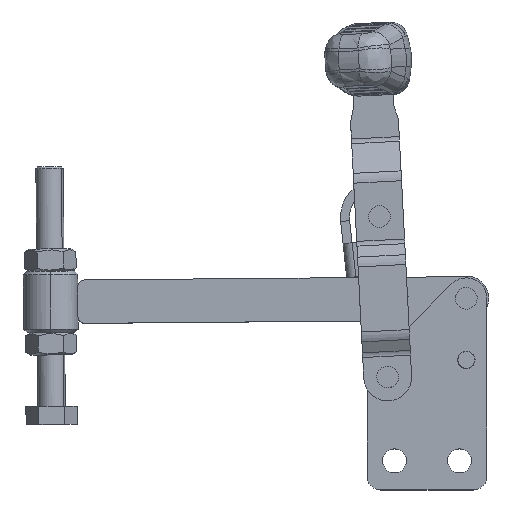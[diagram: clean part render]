
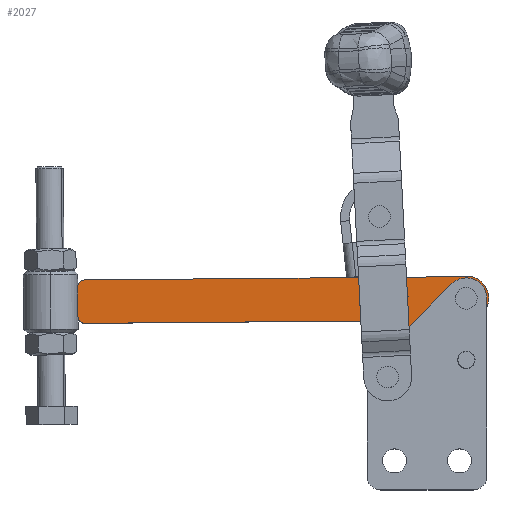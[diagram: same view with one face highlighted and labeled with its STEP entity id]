
A CAD part, top view. The second image highlights one B-rep face of the part: STEP entity #2027.
In plain terms, the highlighted planar face has unit normal (0, 0, 1) as drawn and (0, -1, 0) by its records, which use the part's own axes.
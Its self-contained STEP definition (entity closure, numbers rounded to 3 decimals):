
#147 = DIRECTION ( 'NONE',  ( 0., 1., 0. ) ) ;
#418 = CARTESIAN_POINT ( 'NONE',  ( -57.55, 0., -6.35 ) ) ;
#569 = LINE ( 'NONE', #21620, #13181 ) ;
#696 = VECTOR ( 'NONE', #8075, 1000. ) ;
#793 = CARTESIAN_POINT ( 'NONE',  ( -56.018, 0., 0. ) ) ;
#1320 = VERTEX_POINT ( 'NONE', #28789 ) ;
#2027 = ADVANCED_FACE ( 'NONE', ( #29969, #9384, #14884 ), #5028, .T. ) ;
#2110 = EDGE_CURVE ( 'NONE', #17404, #31319, #569, .T. ) ;
#2946 = VERTEX_POINT ( 'NONE', #29573 ) ;
#2957 = CARTESIAN_POINT ( 'NONE',  ( -41.05, 0., 8.85 ) ) ;
#3030 = EDGE_CURVE ( 'NONE', #1320, #31054, #18619, .T. ) ;
#3162 = AXIS2_PLACEMENT_3D ( 'NONE', #28109, #12039, #30812 ) ;
#3501 = DIRECTION ( 'NONE',  ( 0., 0., 1. ) ) ;
#4241 = CIRCLE ( 'NONE', #32266, 2. ) ;
#4314 = VECTOR ( 'NONE', #27013, 1000. ) ;
#4521 = EDGE_LOOP ( 'NONE', ( #33034, #19930 ) ) ;
#5028 = PLANE ( 'NONE',  #6957 ) ;
#5353 = CARTESIAN_POINT ( 'NONE',  ( -57.55, 0., -6.35 ) ) ;
#6162 = CARTESIAN_POINT ( 'NONE',  ( -33.018, 0., 2.4 ) ) ;
#6400 = ORIENTED_EDGE ( 'NONE', *, *, #11400, .F. ) ;
#6488 = CIRCLE ( 'NONE', #12327, 2.4 ) ;
#6538 = CARTESIAN_POINT ( 'NONE',  ( -41.05, 0., -46.85 ) ) ;
#6780 = CARTESIAN_POINT ( 'NONE',  ( 55.55, 0., -4.35 ) ) ;
#6957 = AXIS2_PLACEMENT_3D ( 'NONE', #21511, #29470, #10677 ) ;
#7442 = ORIENTED_EDGE ( 'NONE', *, *, #31437, .T. ) ;
#7543 = AXIS2_PLACEMENT_3D ( 'NONE', #13615, #32413, #16334 ) ;
#8075 = DIRECTION ( 'NONE',  ( -1., 0., 0. ) ) ;
#9232 = DIRECTION ( 'NONE',  ( 0., 0., 1. ) ) ;
#9384 = FACE_OUTER_BOUND ( 'NONE', #25032, .T. ) ;
#9443 = CIRCLE ( 'NONE', #34185, 2. ) ;
#9472 = DIRECTION ( 'NONE',  ( 0., 0., -1. ) ) ;
#9796 = CARTESIAN_POINT ( 'NONE',  ( -24.55, 0., 6.35 ) ) ;
#10076 = CARTESIAN_POINT ( 'NONE',  ( 57.55, 0., -4.35 ) ) ;
#10560 = DIRECTION ( 'NONE',  ( 0., 1., 0. ) ) ;
#10677 = DIRECTION ( 'NONE',  ( 0., 0., -1. ) ) ;
#10789 = CARTESIAN_POINT ( 'NONE',  ( 55.55, 0., -6.35 ) ) ;
#11400 = EDGE_CURVE ( 'NONE', #24455, #20891, #17038, .T. ) ;
#11495 = EDGE_CURVE ( 'NONE', #20891, #17404, #23345, .T. ) ;
#11855 = EDGE_CURVE ( 'NONE', #1320, #31319, #9443, .T. ) ;
#12039 = DIRECTION ( 'NONE',  ( 0., 1., 0. ) ) ;
#12327 = AXIS2_PLACEMENT_3D ( 'NONE', #16257, #147, #18947 ) ;
#12744 = DIRECTION ( 'NONE',  ( 0., 1., 0. ) ) ;
#13134 = CARTESIAN_POINT ( 'NONE',  ( -57.55, 0., 6.35 ) ) ;
#13181 = VECTOR ( 'NONE', #23843, 1000. ) ;
#13528 = CIRCLE ( 'NONE', #3162, 2.4 ) ;
#13615 = CARTESIAN_POINT ( 'NONE',  ( -56.018, 0., 0. ) ) ;
#13803 = CARTESIAN_POINT ( 'NONE',  ( 55.55, 0., 4.35 ) ) ;
#14148 = VERTEX_POINT ( 'NONE', #418 ) ;
#14884 = FACE_BOUND ( 'NONE', #26199, .T. ) ;
#15040 = ORIENTED_EDGE ( 'NONE', *, *, #3030, .F. ) ;
#16257 = CARTESIAN_POINT ( 'NONE',  ( -33.018, 0., 0. ) ) ;
#16334 = DIRECTION ( 'NONE',  ( 0., 0., -1. ) ) ;
#16491 = DIRECTION ( 'NONE',  ( 0., 0., -1. ) ) ;
#17038 = CIRCLE ( 'NONE', #22435, 55.7 ) ;
#17247 = ORIENTED_EDGE ( 'NONE', *, *, #2110, .F. ) ;
#17404 = VERTEX_POINT ( 'NONE', #9796 ) ;
#18619 = LINE ( 'NONE', #30612, #4314 ) ;
#18947 = DIRECTION ( 'NONE',  ( 0., 0., 1. ) ) ;
#19621 = DIRECTION ( 'NONE',  ( 0., 1., 0. ) ) ;
#19930 = ORIENTED_EDGE ( 'NONE', *, *, #22458, .T. ) ;
#19932 = EDGE_CURVE ( 'NONE', #14148, #24455, #23422, .T. ) ;
#20147 = ORIENTED_EDGE ( 'NONE', *, *, #11855, .T. ) ;
#20891 = VERTEX_POINT ( 'NONE', #2957 ) ;
#21511 = CARTESIAN_POINT ( 'NONE',  ( -56.018, 0., 0. ) ) ;
#21620 = CARTESIAN_POINT ( 'NONE',  ( 57.55, 0., 6.35 ) ) ;
#21831 = VERTEX_POINT ( 'NONE', #6162 ) ;
#21833 = CARTESIAN_POINT ( 'NONE',  ( -33.018, 0., -2.4 ) ) ;
#21849 = ORIENTED_EDGE ( 'NONE', *, *, #31168, .F. ) ;
#22149 = LINE ( 'NONE', #5353, #696 ) ;
#22426 = ORIENTED_EDGE ( 'NONE', *, *, #19932, .F. ) ;
#22435 = AXIS2_PLACEMENT_3D ( 'NONE', #26637, #10560, #29351 ) ;
#22458 = EDGE_CURVE ( 'NONE', #21831, #27217, #6488, .T. ) ;
#22943 = VERTEX_POINT ( 'NONE', #10789 ) ;
#23345 = CIRCLE ( 'NONE', #29615, 55.7 ) ;
#23422 = CIRCLE ( 'NONE', #7543, 6.532 ) ;
#23434 = ORIENTED_EDGE ( 'NONE', *, *, #32639, .T. ) ;
#23843 = DIRECTION ( 'NONE',  ( 1., 0., 0. ) ) ;
#24455 = VERTEX_POINT ( 'NONE', #13134 ) ;
#25032 = EDGE_LOOP ( 'NONE', ( #21849, #33435, #15040, #20147, #17247, #29517, #6400, #22426 ) ) ;
#25052 = EDGE_CURVE ( 'NONE', #27217, #21831, #13528, .T. ) ;
#25319 = DIRECTION ( 'NONE',  ( 0., 1., 0. ) ) ;
#25550 = DIRECTION ( 'NONE',  ( 0., -1., 0. ) ) ;
#26199 = EDGE_LOOP ( 'NONE', ( #23434, #7442 ) ) ;
#26637 = CARTESIAN_POINT ( 'NONE',  ( -41.05, 0., -46.85 ) ) ;
#26666 = CIRCLE ( 'NONE', #26729, 2.4 ) ;
#26729 = AXIS2_PLACEMENT_3D ( 'NONE', #793, #19621, #3501 ) ;
#27013 = DIRECTION ( 'NONE',  ( 0., 0., -1. ) ) ;
#27217 = VERTEX_POINT ( 'NONE', #21833 ) ;
#27432 = EDGE_CURVE ( 'NONE', #22943, #31054, #4241, .T. ) ;
#27560 = CARTESIAN_POINT ( 'NONE',  ( -56.018, 0., -2.4 ) ) ;
#28109 = CARTESIAN_POINT ( 'NONE',  ( -33.018, 0., 0. ) ) ;
#28789 = CARTESIAN_POINT ( 'NONE',  ( 57.55, 0., 4.35 ) ) ;
#28832 = CARTESIAN_POINT ( 'NONE',  ( -56.018, 0., 0. ) ) ;
#29351 = DIRECTION ( 'NONE',  ( 0., 0., 1. ) ) ;
#29470 = DIRECTION ( 'NONE',  ( 0., -1., 0. ) ) ;
#29517 = ORIENTED_EDGE ( 'NONE', *, *, #11495, .F. ) ;
#29573 = CARTESIAN_POINT ( 'NONE',  ( -56.018, 0., 2.4 ) ) ;
#29615 = AXIS2_PLACEMENT_3D ( 'NONE', #6538, #25319, #9232 ) ;
#29969 = FACE_BOUND ( 'NONE', #4521, .T. ) ;
#30612 = CARTESIAN_POINT ( 'NONE',  ( 57.55, 0., -6.35 ) ) ;
#30812 = DIRECTION ( 'NONE',  ( 0., 0., 1. ) ) ;
#31054 = VERTEX_POINT ( 'NONE', #10076 ) ;
#31168 = EDGE_CURVE ( 'NONE', #22943, #14148, #22149, .T. ) ;
#31319 = VERTEX_POINT ( 'NONE', #33314 ) ;
#31355 = CIRCLE ( 'NONE', #34851, 2.4 ) ;
#31437 = EDGE_CURVE ( 'NONE', #2946, #32667, #31355, .T. ) ;
#31537 = DIRECTION ( 'NONE',  ( 0., 0., 1. ) ) ;
#32266 = AXIS2_PLACEMENT_3D ( 'NONE', #6780, #25550, #9472 ) ;
#32413 = DIRECTION ( 'NONE',  ( 0., 1., 0. ) ) ;
#32585 = DIRECTION ( 'NONE',  ( 0., -1., 0. ) ) ;
#32639 = EDGE_CURVE ( 'NONE', #32667, #2946, #26666, .T. ) ;
#32667 = VERTEX_POINT ( 'NONE', #27560 ) ;
#33034 = ORIENTED_EDGE ( 'NONE', *, *, #25052, .T. ) ;
#33314 = CARTESIAN_POINT ( 'NONE',  ( 55.55, 0., 6.35 ) ) ;
#33435 = ORIENTED_EDGE ( 'NONE', *, *, #27432, .T. ) ;
#34185 = AXIS2_PLACEMENT_3D ( 'NONE', #13803, #32585, #16491 ) ;
#34851 = AXIS2_PLACEMENT_3D ( 'NONE', #28832, #12744, #31537 ) ;
